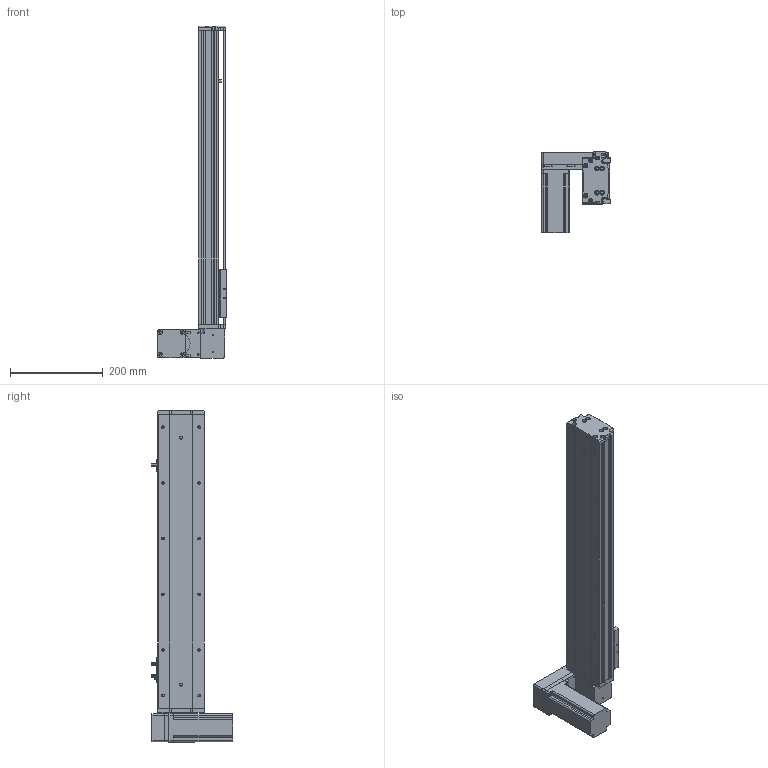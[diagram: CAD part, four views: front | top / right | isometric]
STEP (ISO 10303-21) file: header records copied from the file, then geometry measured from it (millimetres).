
FILE_DESCRIPTION (( 'STEP AP214' ), '1' );
FILE_NAME ('KSD100B-S450-MLD-CM.STEP', '2019-11-09T08:50:44', ( '微软用户' ), ( '微软中国' ), 'SwSTEP 2.0', 'SolidWorks 2014', '' );
FILE_SCHEMA (( 'AUTOMOTIVE_DESIGN' ));
Length unit declared in the file: millimetre
Products named in the file (12): 悵誘欶奻狟殏; 100宽马达安装板连板上下折丝杆同步带; 台达ECMA－C20604AS伺服电机; U倰嫖萇EEㄜSX672; 覜茼え100遵圉猾敕; 100宽防尘板450行程-同步带; 100宽马达安装板同步带左; 100宽同步带安装板半封闭; 100宽马达安装板同步带; 100遵傷啣肮祭湍; 100宽底板半封闭同步带450行程; KSD100B-S450-MLD-CM
Assembly tree (13 placements, depth 2):
  KSD100B-S450-MLD-CM
    100宽底板半封闭同步带450行程
    100遵傷啣肮祭湍
    100宽马达安装板同步带
    100宽同步带安装板半封闭
    100宽马达安装板同步带左
    100宽防尘板450行程-同步带
    覜茼え100遵圉猾敕
    U倰嫖萇EEㄜSX672  x3
    台达ECMA－C20604AS伺服电机
    100宽马达安装板连板上下折丝杆同步带
    悵誘欶奻狟殏
Bounding box: 148 x 174.7 x 715 mm (x, y, z)
Volume: 1927144.6 mm3; surface area: 608458.8 mm2
Topology: 14 solids, 14 shells, 1325 faces, 3704 edges, 2377 vertices
Faces by surface type: cylinder 647, plane 575, cone 103
Entity records: 45845 total; most frequent: CARTESIAN_POINT 8438, DIRECTION 6384, ORIENTED_EDGE 6108, EDGE_CURVE 3054, AXIS2_PLACEMENT_3D 2317, VERTEX_POINT 2001, LINE 1750, VECTOR 1750
